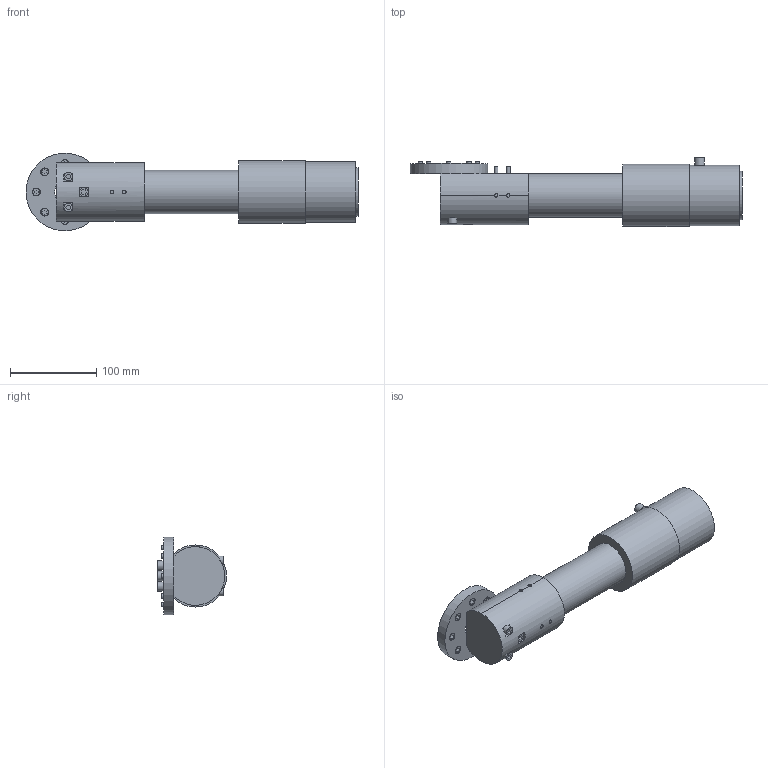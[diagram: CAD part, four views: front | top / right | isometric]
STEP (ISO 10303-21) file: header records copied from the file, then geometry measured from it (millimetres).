
FILE_DESCRIPTION(('Open CASCADE Model'),'2;1');
FILE_NAME('Open CASCADE Shape Model','2026-10-17T21:01:27',('Author'),( 'Open CASCADE'),'Open CASCADE STEP processor 7.9','Open CASCADE 7.9' ,'Unknown');
FILE_SCHEMA(('AUTOMOTIVE_DESIGN { 1 0 10303 214 1 1 1 1 }'));
Length unit declared in the file: millimetre
Products named in the file (13): ARM_L3_FOREARM; forearm_hub_disc; J3_flange_screws_M5; forearm_boss; forearm_boss_screws_M6; forearm_boss_cross_pins_M4; J4_cradle; J4_cradle_cross_pins_M4; J4_body_screws_M4; forearm_tube_carbon; J4_actuator_body; J4_actuator_output_flange; J4_actuator_connectors
Assembly tree (12 placements, depth 2):
  ARM_L3_FOREARM
    forearm_hub_disc
    J3_flange_screws_M5
    forearm_boss
    forearm_boss_screws_M6
    forearm_boss_cross_pins_M4
    J4_cradle
    J4_cradle_cross_pins_M4
    J4_body_screws_M4
    forearm_tube_carbon
    J4_actuator_body
    J4_actuator_output_flange
    J4_actuator_connectors
Bounding box: 385 x 80 x 90 mm (x, y, z)
Volume: 779630.8 mm3; surface area: 222118.5 mm2
Topology: 32 solids, 32 shells, 454 faces, 925 edges, 610 vertices
Faces by surface type: plane 287, cylinder 167
Full cylindrical faces by diameter (mm): 3.3 x24, 4 x54, 4.5 x8, 5 x11, 5.5 x8, 6 x3, 6.6 x3, 7 x8, 7.6 x8, 8.5 x8, 9.1 x8, 10 x3, 11 x3, 12 x2, 16 x1, 24 x2, 46 x1, 50 x1, 50.3 x1, 56 x1, 67 x2, 70 x1, 72 x1, 90 x1
Entity records: 33375 total; most frequent: CARTESIAN_POINT 13396, DIRECTION 3669, LINE 1903, VECTOR 1903, ORIENTED_EDGE 1850, PCURVE 1850, DEFINITIONAL_REPRESENTATION 1850, EDGE_CURVE 925
